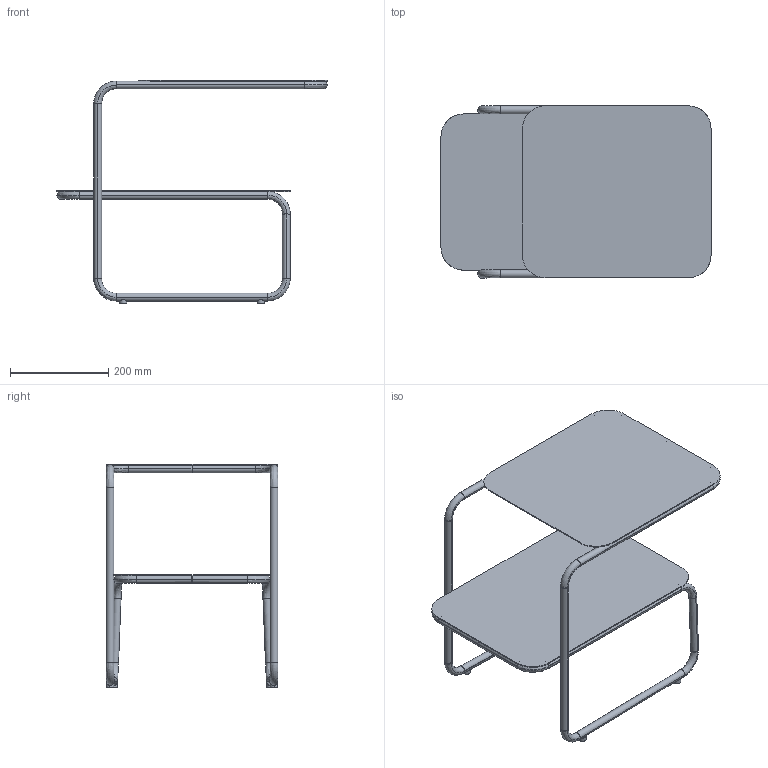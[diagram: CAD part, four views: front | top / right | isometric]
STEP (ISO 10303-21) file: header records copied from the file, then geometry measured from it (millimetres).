
FILE_DESCRIPTION(/* description */ (''),/* implementation_level */ '2;1');
FILE_NAME(/* name */ 'Level Side Table_3D',/* time_stamp */ '2021-05-03T12:58:07+02:00',/* author */ (''),/* organization */ (''),/* preprocessor_version */ 'ST-DEVELOPER v16.5',/* originating_system */ '',/* authorisation */ '');
FILE_SCHEMA (('CONFIG_CONTROL_DESIGN'));
Length unit declared in the file: millimetre
Products named in the file (1): Document
Bounding box: 550 x 350 x 455.82 mm (x, y, z)
Volume: 948792.7 mm3; surface area: 953447.6 mm2
Topology: 8 solids, 8 shells, 174 faces, 360 edges, 208 vertices
Faces by surface type: cylinder 96, bspline 48, plane 30
Entity records: 6798 total; most frequent: CARTESIAN_POINT 4424, ORIENTED_EDGE 720, EDGE_CURVE 360, VERTEX_POINT 208, EDGE_LOOP 192, ADVANCED_FACE 174, FACE_OUTER_BOUND 174, DIRECTION 130
